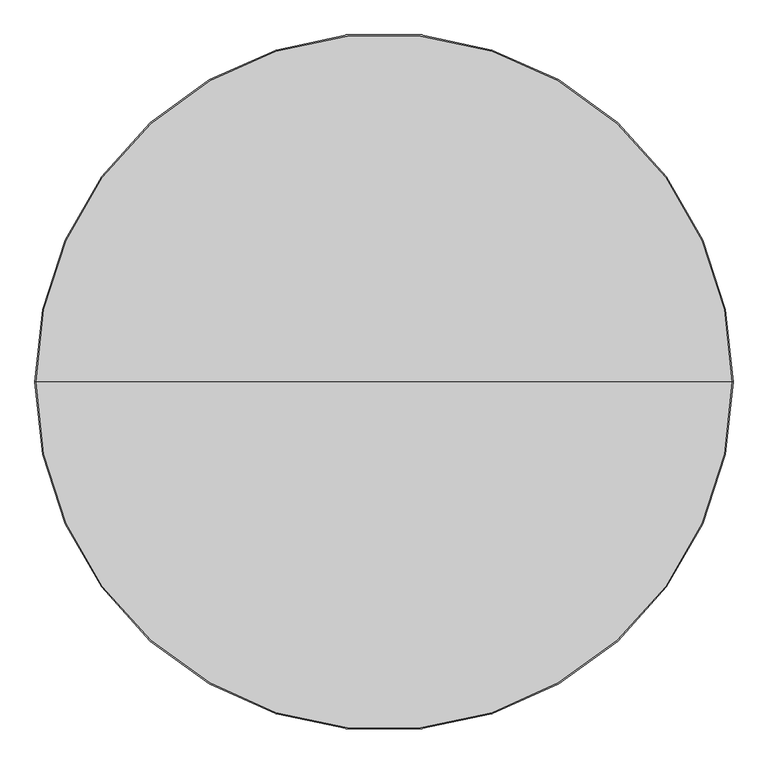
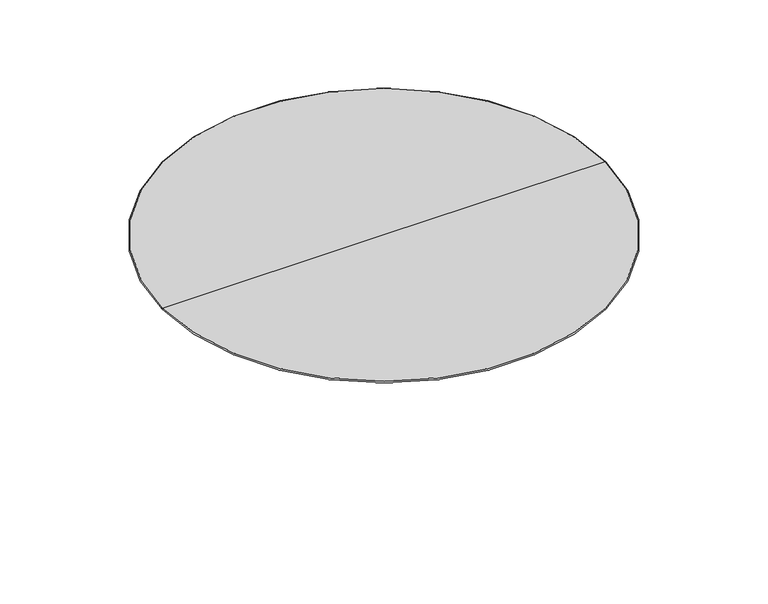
"""IFC4 building model written with IfcOpenShell, lengths in millimetres: furniture geometry, Furniture_Wilkhahn_622-45_Logon Circular Table : Logon 622/45_2200D x 730H."""

import ifcopenshell
import ifcopenshell.guid

model = None  # the IFC model being written
_history = None  # IfcOwnerHistory: only IFC2X3 demands one
_inside = {}  # id of a spatial element -> (the spatial element, [elements in it])
_under = {}  # id of a project, library or spatial element -> (it, [spatial elements below it])
_declared = {}  # id of a project -> (the project, [libraries it declares])
_typed = {}  # id of a type object -> (the type object, [elements of that type])
_made_of = {}  # id of a material, layer set ... -> (it, [elements and type objects made of it])


def new_model(schema):
    """Start an empty IFC model of exactly this schema.

    Asked for "IFC4X3", IfcOpenShell would pick the latest addendum, in which some entities
    have other attributes; the version numbers below select the first issue.
    IFC2X3 requires an IfcOwnerHistory on every rooted entity: one is made here for all.
    """
    global model, _history
    if schema == "IFC4X3":
        model = ifcopenshell.file(schema_version=(4, 3, 0, 0))
    else:
        model = ifcopenshell.file(schema=schema)
    _inside.clear()
    _under.clear()
    _declared.clear()
    _typed.clear()
    _made_of.clear()
    _history = None
    if model.schema == "IFC2X3":
        org = make("IfcOrganization", Name="unknown")
        user = make(
            "IfcPersonAndOrganization",
            ThePerson=make("IfcPerson", FamilyName="unknown"),
            TheOrganization=org,
        )
        app = make(
            "IfcApplication",
            ApplicationDeveloper=org,
            Version="unknown",
            ApplicationFullName="unknown",
            ApplicationIdentifier="unknown",
        )
        _history = make(
            "IfcOwnerHistory",
            OwningUser=user,
            OwningApplication=app,
            ChangeAction="ADDED",
            CreationDate=0,
        )
    return model


def make(cls, **values):
    """One entity of the class cls with the attributes given. An attribute that is None is left unset."""
    return model.create_entity(
        cls, **{name: value for name, value in values.items() if value is not None}
    )


def rooted(cls, **values):
    """An entity with a GlobalId (a new one), such as an element, a storey or a relation."""
    return make(cls, GlobalId=ifcopenshell.guid.new(), OwnerHistory=_history, **values)


def si_unit(unit_type, name, prefix=None):
    """IfcSIUnit, for example si_unit("LENGTHUNIT", "METRE", prefix="MILLI")."""
    return make("IfcSIUnit", UnitType=unit_type, Prefix=prefix, Name=name)


def assignment(units):
    """IfcUnitAssignment: the units of a project."""
    return None if units is None else make("IfcUnitAssignment", Units=units)


def point(xyz):
    """IfcCartesianPoint."""
    return None if xyz is None else make("IfcCartesianPoint", Coordinates=xyz)


def direction(xyz):
    """IfcDirection."""
    return None if xyz is None else make("IfcDirection", DirectionRatios=xyz)


def frame(location, z_axis=None, x_axis=None):
    """IfcAxis2Placement3D, a coordinate frame: its origin and axes. An axis left out is left unset."""
    return make(
        "IfcAxis2Placement3D",
        Location=point(location),
        Axis=direction(z_axis),
        RefDirection=direction(x_axis),
    )


def frame_2d(location, x_axis=None):
    """IfcAxis2Placement2D, a coordinate frame in the plane: its origin and x axis."""
    return make(
        "IfcAxis2Placement2D", Location=point(location), RefDirection=direction(x_axis)
    )


def origin():
    """The frame at (0, 0, 0) with its axes left unset."""
    return frame((0.0, 0.0, 0.0))


def place(relative_to, where):
    """IfcLocalPlacement: puts the frame where relative to a parent placement (None: the world)."""
    return make(
        "IfcLocalPlacement", PlacementRelTo=relative_to, RelativePlacement=where
    )


def context(
    kind, dimensions, precision=None, world=None, true_north=None, identifier=None
):
    """IfcGeometricRepresentationContext, for example the 3D "Model" context."""
    return make(
        "IfcGeometricRepresentationContext",
        ContextIdentifier=identifier,
        ContextType=kind,
        CoordinateSpaceDimension=dimensions,
        Precision=precision,
        WorldCoordinateSystem=world,
        TrueNorth=true_north,
    )


def project(units=None, contexts=None):
    """IfcProject with its units and contexts."""
    return rooted(
        "IfcProject",
        Name="project",
        RepresentationContexts=contexts,
        UnitsInContext=assignment(units),
    )


def spatial(cls, under=None, at=None, **own):
    """A site, building, storey or space (cls), placed at a placement, below another one or the project."""
    s = rooted(cls, ObjectPlacement=at, **own)
    if under is not None:
        _under.setdefault(under.id(), (under, []))[1].append(s)
    return s


def polyline(points):
    """IfcPolyline through the points."""
    return make("IfcPolyline", Points=[point(p) for p in points])


def circle_curve(where, radius):
    """IfcCircle in the frame where."""
    return make("IfcCircle", Position=where, Radius=radius)


def ellipse_curve(where, semi_axis1, semi_axis2):
    """IfcEllipse in the frame where."""
    return make(
        "IfcEllipse", Position=where, SemiAxis1=semi_axis1, SemiAxis2=semi_axis2
    )


def trimmed(basis, trim1, trim2, sense, master):
    """IfcTrimmedCurve: the piece of a basis curve between two trims."""
    return make(
        "IfcTrimmedCurve",
        BasisCurve=basis,
        Trim1=trim1,
        Trim2=trim2,
        SenseAgreement=sense,
        MasterRepresentation=master,
    )


def segment(curve, same_sense, transition):
    """IfcCompositeCurveSegment."""
    return make(
        "IfcCompositeCurveSegment",
        Transition=transition,
        SameSense=same_sense,
        ParentCurve=curve,
    )


def composite_curve(segments, self_intersect=None):
    """IfcCompositeCurve: segments joined end to end."""
    return make("IfcCompositeCurve", Segments=segments, SelfIntersect=self_intersect)


def outline(outer, holes=None, kind="AREA"):
    """IfcArbitraryClosedProfileDef: a profile drawn as a closed curve; with holes, ...WithVoids."""
    if holes is None:
        return make("IfcArbitraryClosedProfileDef", ProfileType=kind, OuterCurve=outer)
    return make(
        "IfcArbitraryProfileDefWithVoids",
        ProfileType=kind,
        OuterCurve=outer,
        InnerCurves=holes,
    )


def extrude(swept, where, along, depth):
    """IfcExtrudedAreaSolid: the profile swept, set in the frame where, extruded along a direction by depth."""
    return make(
        "IfcExtrudedAreaSolid",
        SweptArea=swept,
        Position=where,
        ExtrudedDirection=direction(along),
        Depth=depth,
    )


def shape(context_of_items, identifier, shape_type, items):
    """IfcShapeRepresentation: the items that make up one representation, for example the "Body"."""
    return make(
        "IfcShapeRepresentation",
        ContextOfItems=context_of_items,
        RepresentationIdentifier=identifier,
        RepresentationType=shape_type,
        Items=items,
    )


def source(mapping_origin, context_of_items, identifier, shape_type, items):
    """IfcRepresentationMap: a shape defined once, which mapped items show again and again."""
    return make(
        "IfcRepresentationMap",
        MappingOrigin=mapping_origin,
        MappedRepresentation=shape(context_of_items, identifier, shape_type, items),
    )


def transform(
    local_origin,
    x_axis=None,
    y_axis=None,
    z_axis=None,
    scale=None,
    scale2=None,
    scale3=None,
    uniform=True,
):
    """IfcCartesianTransformationOperator3D, or its non-uniform kind. x_axis, y_axis, z_axis: its Axis1, 2, 3."""
    if uniform:
        return make(
            "IfcCartesianTransformationOperator3D",
            Axis1=direction(x_axis),
            Axis2=direction(y_axis),
            LocalOrigin=point(local_origin),
            Scale=scale,
            Axis3=direction(z_axis),
        )
    return make(
        "IfcCartesianTransformationOperator3DnonUniform",
        Axis1=direction(x_axis),
        Axis2=direction(y_axis),
        LocalOrigin=point(local_origin),
        Scale=scale,
        Axis3=direction(z_axis),
        Scale2=scale2,
        Scale3=scale3,
    )


def mapped(mapping_source, mapping_target):
    """IfcMappedItem: shows the shape of a source again, moved by a transform."""
    return make(
        "IfcMappedItem", MappingSource=mapping_source, MappingTarget=mapping_target
    )


def made_of(thing, what):
    """Note that an element or type object is made of a material, layer set ...; save() writes the relation."""
    if what is not None:
        _made_of.setdefault(what.id(), (what, []))[1].append(thing)
    return thing


def element(
    cls,
    number,
    at=None,
    inside=None,
    cuts=None,
    type_object=None,
    material=None,
    context=None,
    identifier="Body",
    shape_type=None,
    held_by="IfcProductDefinitionShape",
    body=None,
    shapes=None,
    **own,
):
    """One element of the class cls, such as IfcWall. Its Tag is "e" and its number.

    at: its placement. inside: the storey or other place that contains it. cuts: it is an
    opening in that element (IfcRelVoidsElement). A single representation is given by context,
    identifier, shape_type and body (its items); several are given by shapes. held_by: the class
    of the entity that holds the representations. save() writes the other relations.
    """
    e = rooted(cls, Tag="e%d" % number, ObjectPlacement=at, **own)
    if body is not None:
        shapes = [shape(context, identifier, shape_type, body)]
    if shapes is not None:
        e.Representation = make(held_by, Representations=shapes)
    if inside is not None:
        _inside.setdefault(inside.id(), (inside, []))[1].append(e)
    if cuts is not None:
        rooted(
            "IfcRelVoidsElement", RelatingBuildingElement=cuts, RelatedOpeningElement=e
        )
    if type_object is not None:
        _typed.setdefault(type_object.id(), (type_object, []))[1].append(e)
    return made_of(e, material)


def aggregate(whole, parts):
    """IfcRelAggregates: a whole, such as a stair, and the parts it consists of."""
    return rooted("IfcRelAggregates", RelatingObject=whole, RelatedObjects=parts)


def save(model, path):
    """Write the relations noted so far, then the file.

    IfcRelAggregates (storeys below a building ...), IfcRelContainedInSpatialStructure (elements
    in a storey), IfcRelDefinesByType, IfcRelAssociatesMaterial and IfcRelDeclares: one each for
    every whole, place, type object, material and project.
    """
    for whole, parts in _under.values():
        aggregate(whole, parts)
    for where, things in _inside.values():
        rooted(
            "IfcRelContainedInSpatialStructure",
            RelatedElements=things,
            RelatingStructure=where,
        )
    for kind, things in _typed.values():
        rooted("IfcRelDefinesByType", RelatedObjects=things, RelatingType=kind)
    for what, things in _made_of.values():
        rooted("IfcRelAssociatesMaterial", RelatedObjects=things, RelatingMaterial=what)
    for by, libraries in _declared.values():
        rooted("IfcRelDeclares", RelatingContext=by, RelatedDefinitions=libraries)
    model.write(path)


def plane_surface(at):
    """IfcPlane: the flat surface through the origin of the frame at, square to its z axis."""
    return make("IfcPlane", Position=at)


def cylinder_surface(at, radius):
    """IfcCylindricalSurface: all points at the distance radius from the z axis of the frame at."""
    return make("IfcCylindricalSurface", Position=at, Radius=radius)


def revolved_surface(curve, axis_point, axis_direction):
    """IfcSurfaceOfRevolution: the curve turned about the line through axis_point along axis_direction."""
    return make(
        "IfcSurfaceOfRevolution",
        SweptCurve=make("IfcArbitraryOpenProfileDef", ProfileType="CURVE", Curve=curve),
        AxisPosition=make("IfcAxis1Placement", Location=point(axis_point), Axis=direction(axis_direction)),
    )


def advanced_brep(points, edges, surfaces, faces):
    """IfcAdvancedBrep: a solid bounded by faces that lie on surfaces and meet in shared edges.

    An edge is (start, end): straight between two places in points (the first is 0);
    or (start, end, curve); or (start, end, curve, False) where it runs against its curve.
    A face is (place in surfaces, loops), or (place, loops, False) where it looks against
    its surface's normal. A loop lists edges by number (the first is 1), with a minus sign
    where the edge is run from its end to its start. The first loop is the outer one.
    """
    corners = [point(p) for p in points]
    vertices = [make("IfcVertexPoint", VertexGeometry=c) for c in corners]
    made = []
    for start, end, *more in edges:
        made.append(
            make(
                "IfcEdgeCurve",
                EdgeStart=vertices[start],
                EdgeEnd=vertices[end],
                EdgeGeometry=more[0] if more else make("IfcPolyline", Points=[corners[start], corners[end]]),
                SameSense=more[1] if len(more) > 1 else True,
            )
        )
    hull = []
    for where, loops, *sense in faces:
        bounds = []
        for j, loop in enumerate(loops):
            ring = [make("IfcOrientedEdge", EdgeElement=made[abs(k) - 1], Orientation=k > 0) for k in loop]
            bounds.append(
                make(
                    "IfcFaceOuterBound" if j == 0 else "IfcFaceBound",
                    Bound=make("IfcEdgeLoop", EdgeList=ring),
                    Orientation=True,
                )
            )
        hull.append(make("IfcAdvancedFace", Bounds=bounds, FaceSurface=surfaces[where], SameSense=sense[0] if sense else True))
    return make("IfcAdvancedBrep", Outer=make("IfcClosedShell", CfsFaces=hull))


def furniture_cc9b5e61(model_context):
    return source(origin(), model_context, "Body", "SolidModel", [
        advanced_brep(
        [(597.0, 0.9511544, 140.0), (703.0, 0.9511544, 140.0), (703.0, 0.9511544, 195.0), (597.0, 0.9511544, 195.0), (597.0, 50.9511544, 195.0), (703.0, 50.9511544, 195.0), (703.0, 50.9511544, 140.0), (597.0, 50.9511544, 140.0), (311.951276, 39.4441963, 27.0), (311.951276, 12.4581125, 27.0), (299.475638, 12.9617339, 27.0), (287.0, 25.9511544, 27.0), (299.475638, 38.9405749, 27.0), (299.475638, 38.9405749, 56.4159205), (287.0, 25.9511544, 50.6048844), (299.475638, 12.9617339, 56.4159205), (1000.524362, 38.9405749, 56.4159205), (1000.524362, 38.9405749, 27.0), (988.048724, 39.4441963, 27.0), (1000.524362, 12.9617339, 27.0), (1000.524362, 12.9617339, 56.4159205), (988.048724, 12.4581125, 27.0), (1013.0, 25.9511544, 27.0), (1013.0, 25.9511544, 50.6048844)],
        [
            (0, 1),
            (1, 2),
            (2, 3),
            (3, 0),
            (4, 5),
            (5, 6),
            (6, 7),
            (7, 4),
            (8, 9),
            (9, 10),
            (10, 11, circle_curve(frame((300.0, 25.9511544, 27.0), z_axis=(0.0, 0.0, -1.0), x_axis=(0.0, 1.0, 0.0)), 13.0)),
            (11, 12, circle_curve(frame((300.0, 25.9511544, 27.0), z_axis=(0.0, 0.0, -1.0), x_axis=(0.0, 1.0, 0.0)), 13.0)),
            (12, 8),
            (3, 4),
            (4, 13),
            (13, 14, ellipse_curve(frame((300.0, 25.9511544, 56.6601634), z_axis=(-0.4222333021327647, 0.0, 0.9064871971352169), x_axis=(-0.906487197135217, 0.0, -0.4222333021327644)), 14.341074, 13.0)),
            (14, 15, ellipse_curve(frame((300.0, 25.9511544, 56.6601634), z_axis=(-0.4222333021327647, 0.0, 0.9064871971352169), x_axis=(-0.906487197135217, 0.0, -0.4222333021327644)), 14.341074, 13.0)),
            (15, 3),
            (7, 0),
            (0, 9),
            (8, 7),
            (16, 17),
            (17, 18),
            (18, 6),
            (5, 16),
            (19, 20),
            (20, 2),
            (1, 21),
            (21, 19),
            (2, 5),
            (6, 1),
            (19, 22, circle_curve(frame((1000.0, 25.9511544, 27.0), z_axis=(0.0, 0.0, 1.0), x_axis=(0.0, 1.0, 0.0)), 13.0)),
            (22, 17, circle_curve(frame((1000.0, 25.9511544, 27.0), z_axis=(0.0, 0.0, 1.0), x_axis=(0.0, 1.0, 0.0)), 13.0)),
            (16, 23, ellipse_curve(frame((1000.0, 25.9511544, 56.6601634), z_axis=(-0.4222333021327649, 0.0, -0.9064871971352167), x_axis=(0.9064871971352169, 0.0, -0.4222333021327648)), 14.341074, 13.0)),
            (23, 20, ellipse_curve(frame((1000.0, 25.9511544, 56.6601634), z_axis=(-0.4222333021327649, 0.0, -0.9064871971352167), x_axis=(0.9064871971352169, 0.0, -0.4222333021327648)), 14.341074, 13.0)),
            (15, 10),
            (13, 12),
            (21, 18),
        ],
        [
            plane_surface(frame((303.7465398, 0.9511544, 27.0), z_axis=(0.0, -1.0, 0.0), x_axis=(1.0, 0.0, 0.0))),
            plane_surface(frame((303.7465398, 50.9511544, 27.0), z_axis=(0.0, 1.0, 0.0), x_axis=(-1.0, 0.0, 0.0))),
            plane_surface(frame((311.951276, 50.9511544, 27.0), z_axis=(0.0, 0.0, -1.0), x_axis=(0.0, -1.0, 0.0))),
            plane_surface(frame((287.0, 50.9511544, 50.6048844), z_axis=(-0.4222333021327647, 0.0, 0.9064871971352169), x_axis=(0.0, -1.0, 0.0))),
            plane_surface(frame((597.0, 50.9511544, 140.0), z_axis=(0.3685226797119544, 0.0, -0.929618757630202), x_axis=(0.0, -1.0, 0.0))),
            plane_surface(frame((703.0, 50.9511544, 195.0), z_axis=(0.040335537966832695, 0.9991861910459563, 0.0), x_axis=(0.0, 0.0, -1.0))),
            plane_surface(frame((1000.524362, 12.9617339, 195.0), z_axis=(0.04033553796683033, -0.9991861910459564, 0.0), x_axis=(0.0, 0.0, -1.0))),
            plane_surface(frame((597.0, 50.9511544, 195.0), z_axis=(0.0, 0.0, 1.0), x_axis=(0.0, -1.0, 0.0))),
            plane_surface(frame((703.0, 50.9511544, 140.0), z_axis=(0.0, 0.0, -1.0), x_axis=(0.0, -1.0, 0.0))),
            cylinder_surface(frame((1000.0, 25.9511544, 0.0), z_axis=(0.0, 0.0, -1.0), x_axis=(0.0, 1.0, 0.0)), 13.0),
            plane_surface(frame((597.0, 0.9511544, 195.0), z_axis=(-0.04033553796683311, -0.9991861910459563, 0.0), x_axis=(0.0, 0.0, -1.0))),
            cylinder_surface(frame((300.0, 25.9511544, -14.190167), z_axis=(0.0, 0.0, -1.0), x_axis=(0.0, 1.0, 0.0)), 13.0),
            plane_surface(frame((299.475638, 38.9405749, 195.0), z_axis=(-0.04033553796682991, 0.9991861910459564, 0.0), x_axis=(0.0, 0.0, -1.0))),
            plane_surface(frame((703.0, 50.9511544, 195.0), z_axis=(0.4222333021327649, 0.0, 0.9064871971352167), x_axis=(0.0, -1.0, 0.0))),
            plane_surface(frame((1013.0, 50.9511544, 27.0), z_axis=(0.0, 0.0, -1.0), x_axis=(0.0, -1.0, 0.0))),
            plane_surface(frame((988.048724, 50.9511544, 27.0), z_axis=(-0.3685226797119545, 0.0, -0.929618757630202), x_axis=(0.0, -1.0, 0.0))),
        ],
        [
            (0, [[1, 2, 3, 4]]),
            (1, [[5, 6, 7, 8]]),
            (2, [[9, 10, 11, 12, 13]]),
            (3, [[14, 15, 16, 17, 18]]),
            (4, [[19, 20, -9, 21]]),
            (5, [[22, 23, 24, -6, 25]]),
            (6, [[26, 27, -2, 28, 29]]),
            (7, [[-3, 30, -5, -14]]),
            (8, [[-1, -19, -7, 31]]),
            (9, [[-26, 32, 33, -22, 34, 35]]),
            (10, [[36, -10, -20, -4, -18]]),
            (11, [[-36, -17, -16, 37, -12, -11]]),
            (12, [[-37, -15, -8, -21, -13]]),
            (13, [[-30, -27, -35, -34, -25]]),
            (14, [[38, -23, -33, -32, -29]]),
            (15, [[-31, -24, -38, -28]]),
        ],
    ),
        extrude(outline(composite_curve([segment(trimmed(circle_curve(frame_2d((703.0, 25.9511544)), 20.0), [point((703.0, 5.9511544))], [point((703.0, 45.9511544))], False, "CARTESIAN"), True, "CONTINUOUS"), segment(trimmed(circle_curve(frame_2d((703.0, 25.9511544)), 20.0), [point((703.0, 45.9511544))], [point((703.0, 5.9511544))], False, "CARTESIAN"), True, "CONTINUOUS")], self_intersect=False)), frame((0.0, 0.0, 140.0), z_axis=(0.0, 0.0, 1.0), x_axis=(1.0, 0.0, 0.0)), (0.0, 0.0, 1.0), 535.0),
        extrude(outline(composite_curve([segment(trimmed(circle_curve(frame_2d((597.0, 25.9511544)), 20.0), [point((597.0, 5.9511544))], [point((597.0, 45.9511544))], False, "CARTESIAN"), True, "CONTINUOUS"), segment(trimmed(circle_curve(frame_2d((597.0, 25.9511544)), 20.0), [point((597.0, 45.9511544))], [point((597.0, 5.9511544))], False, "CARTESIAN"), True, "CONTINUOUS")], self_intersect=False)), frame((0.0, 0.0, 140.0), z_axis=(0.0, 0.0, 1.0), x_axis=(1.0, 0.0, 0.0)), (0.0, 0.0, 1.0), 535.0),
        advanced_brep(
        [(0.0, 25.9511544, 703.9999792), (1070.6711015, 25.9511544, 703.9999792), (-1070.6711015, 25.9511544, 703.9999792), (-1096.5127954, 25.9511544, 730.0), (1096.5127954, 25.9511544, 730.0), (0.0, 25.9511544, 730.0), (-1098.5546021, 25.9511544, 723.5242165), (1098.5546021, 25.9511544, 723.5242165)],
        [
            (0, 1),
            (1, 2, circle_curve(frame((0.0, 25.9511544, 703.9999792), z_axis=(0.0, 0.0, -1.0), x_axis=(1.0, 0.0, 0.0)), 1070.6711015)),
            (2, 0),
            (2, 1, circle_curve(frame((0.0, 25.9511544, 703.9999792), z_axis=(0.0, 0.0, -1.0), x_axis=(1.0, 0.0, 0.0)), 1070.6711015)),
            (3, 4, circle_curve(frame((0.0, 25.9511544, 730.0), z_axis=(0.0, 0.0, 1.0), x_axis=(1.0, 0.0, 0.0)), 1096.5127954)),
            (4, 5),
            (5, 3),
            (4, 3, circle_curve(frame((0.0, 25.9511544, 730.0), z_axis=(0.0, 0.0, 1.0), x_axis=(1.0, 0.0, 0.0)), 1096.5127954)),
            (6, 7, circle_curve(frame((0.0, 25.9511544, 723.5242165), z_axis=(0.0, 0.0, 1.0), x_axis=(1.0, 0.0, 0.0)), 1098.5546021)),
            (7, 4, circle_curve(frame((1096.5127954, 25.9511544, 726.4402187), z_axis=(0.0, -1.0, 0.0), x_axis=(-1.0, 0.0, 0.0)), 3.5597813)),
            (3, 6, circle_curve(frame((-1096.5127954, 25.9511544, 726.4402187), z_axis=(0.0, -1.0, 0.0), x_axis=(1.0, 0.0, 0.0)), 3.5597813)),
            (7, 6, circle_curve(frame((0.0, 25.9511544, 723.5242165), z_axis=(0.0, 0.0, 1.0), x_axis=(1.0, 0.0, 0.0)), 1098.5546021)),
            (1, 7),
            (6, 2),
        ],
        [
            plane_surface(frame((0.0, 25.9511544, 703.9999792), z_axis=(0.0, 0.0, -1.0), x_axis=(1.0, 0.0, 0.0))),
            plane_surface(frame((0.0, 25.9511544, 730.0), z_axis=(0.0, 0.0, 1.0), x_axis=(1.0, 0.0, 0.0))),
            revolved_surface(trimmed(ellipse_curve(frame((1096.5127954, 25.9511544, 726.4402187), z_axis=(0.0, 1.0, 0.0), x_axis=(-1.0, 0.0, 0.0)), 3.5597813, 3.5597813), [point((1096.5127954, 25.9511544, 730.0))], [point((1098.5546021, 25.9511544, 723.5242165))], True, "CARTESIAN"), (0.0, 25.9511544, 790.0), (0.0, 0.0, -1.0)),
            revolved_surface(polyline([(1098.5546021, 25.9511544, 723.5242165), (1070.6711015, 25.9511544, 703.9999792)]), (0.0, 25.9511544, 790.0), (0.0, 0.0, -1.0)),
        ],
        [
            (0, [[1, 2, 3]]),
            (0, [[-3, 4, -1]]),
            (1, [[5, 6, 7]]),
            (1, [[8, -7, -6]]),
            (2, [[9, 10, -5, 11]]),
            (2, [[12, -11, -8, -10]]),
            (3, [[-2, 13, -9, 14]]),
            (3, [[-4, -14, -12, -13]]),
        ],
    ),
    ])


if __name__ == "__main__":
    model = new_model("IFC4")
    model_context = context("Model", 3, world=origin())
    ifc_project = project(units=[si_unit("LENGTHUNIT", "METRE", prefix="MILLI")], contexts=[model_context])
    site = spatial("IfcSite", under=ifc_project)
    building = spatial("IfcBuilding", under=site)
    placement = place(None, origin())
    furniture_shape = furniture_cc9b5e61(model_context)
    element("IfcFurniture", 1, ObjectType="Furniture_Wilkhahn_622-45_Logon Circular Table : Logon 622/45_2200D x 730H", at=placement, inside=building, context=model_context, shape_type="MappedRepresentation", body=[
        mapped(furniture_shape, transform((0.0, 0.0, 0.0), x_axis=(1.0, 0.0, 0.0), y_axis=(0.0, 1.0, 0.0), z_axis=(0.0, 0.0, 1.0))),
    ])
    save(model, "model.ifc")
